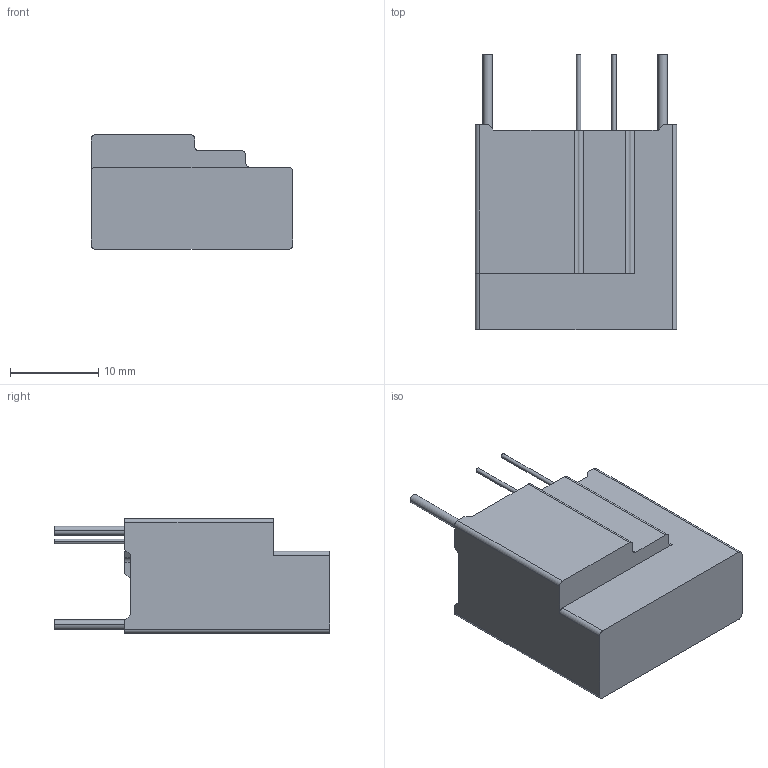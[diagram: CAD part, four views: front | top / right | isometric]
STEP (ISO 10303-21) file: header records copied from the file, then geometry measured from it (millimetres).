
FILE_DESCRIPTION((''),'2;1');
FILE_NAME('20S4601-IT-20200616','2020-06-19T',('set'),(''),'PRO/ENGINEER BY PARAMETRIC TECHNOLOGY CORPORATION, 2012310','PRO/ENGINEER BY PARAMETRIC TECHNOLOGY CORPORATION, 2012310','');
FILE_SCHEMA(('CONFIG_CONTROL_DESIGN','SHAPE_APPEARANCE_LAYERS_GROUPS'));
Length unit declared in the file: millimetre
Products named in the file (1): 20S4601-IT-20200616
Bounding box: 22.8 x 31.2 x 13 mm (x, y, z)
Volume: 1544.2 mm3; surface area: 4006.5 mm2
Topology: 1 solids, 2 shells, 107 faces, 297 edges, 198 vertices
Faces by surface type: plane 79, cylinder 28
Entity records: 3456 total; most frequent: CARTESIAN_POINT 602, ORIENTED_EDGE 594, DIRECTION 567, EDGE_CURVE 297, VECTOR 241, LINE 241, VERTEX_POINT 198, AXIS2_PLACEMENT_3D 163
